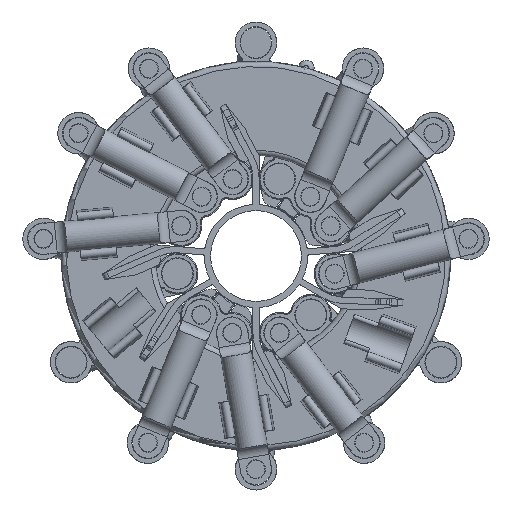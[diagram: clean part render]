
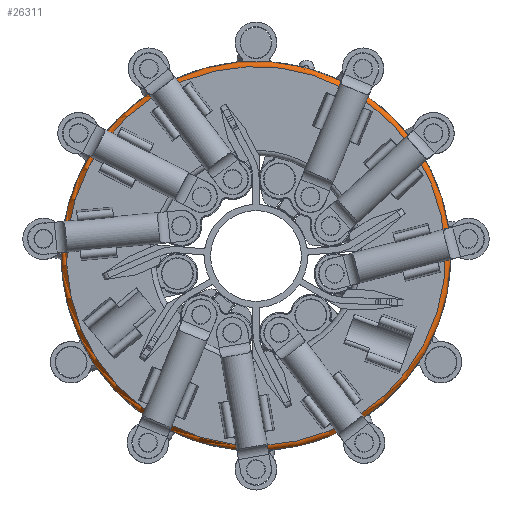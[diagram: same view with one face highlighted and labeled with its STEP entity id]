
A CAD part, front view. The second image highlights one B-rep face of the part: STEP entity #26311.
In plain terms, the highlighted toroidal (fillet/blend) face has major radius 36.7 mm and minor radius 1 mm.
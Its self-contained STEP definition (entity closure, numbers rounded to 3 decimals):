
#129=TOROIDAL_SURFACE('',#29480,36.7,1.);
#2453=FACE_OUTER_BOUND('',#3976,.T.);
#3976=EDGE_LOOP('',(#22856,#22857,#22858,#22859,#22860,#22861));
#7728=CIRCLE('',#26787,36.7);
#9072=CIRCLE('',#29045,37.7);
#9073=CIRCLE('',#29047,37.7);
#9074=CIRCLE('',#29048,37.7);
#9254=CIRCLE('',#29481,1.);
#9709=VERTEX_POINT('',#39328);
#11474=VERTEX_POINT('',#46161);
#11475=VERTEX_POINT('',#46174);
#11477=VERTEX_POINT('',#46196);
#12324=EDGE_CURVE('',#9709,#9709,#7728,.T.);
#14975=EDGE_CURVE('',#11475,#11474,#9072,.T.);
#14976=EDGE_CURVE('',#11477,#11475,#9073,.T.);
#14977=EDGE_CURVE('',#11474,#11477,#9074,.T.);
#15402=EDGE_CURVE('',#9709,#11477,#9254,.T.);
#22856=ORIENTED_EDGE('',*,*,#12324,.T.);
#22857=ORIENTED_EDGE('',*,*,#15402,.T.);
#22858=ORIENTED_EDGE('',*,*,#14976,.T.);
#22859=ORIENTED_EDGE('',*,*,#14975,.T.);
#22860=ORIENTED_EDGE('',*,*,#14977,.T.);
#22861=ORIENTED_EDGE('',*,*,#15402,.F.);
#26311=ADVANCED_FACE('',(#2453),#129,.T.);
#26787=AXIS2_PLACEMENT_3D('',#39329,#30740,#30741);
#29045=AXIS2_PLACEMENT_3D('',#46194,#36415,#36416);
#29047=AXIS2_PLACEMENT_3D('',#46197,#36419,#36420);
#29048=AXIS2_PLACEMENT_3D('',#46198,#36421,#36422);
#29480=AXIS2_PLACEMENT_3D('',#47104,#37522,#37523);
#29481=AXIS2_PLACEMENT_3D('',#47105,#37524,#37525);
#30740=DIRECTION('center_axis',(0.,1.,0.));
#30741=DIRECTION('ref_axis',(0.,0.,
-1.));
#36415=DIRECTION('center_axis',(0.,-1.,0.));
#36416=DIRECTION('ref_axis',(0.,0.,
1.));
#36419=DIRECTION('center_axis',(0.,-1.,0.));
#36420=DIRECTION('ref_axis',(0.,0.,
1.));
#36421=DIRECTION('center_axis',(0.,-1.,0.));
#36422=DIRECTION('ref_axis',(0.,0.,
1.));
#37522=DIRECTION('center_axis',(0.,-1.,0.));
#37523=DIRECTION('ref_axis',(-0.22,0.,0.976));
#37524=DIRECTION('center_axis',(0.976,0.,
0.22));
#37525=DIRECTION('ref_axis',(0.22,0.,-0.976));
#39328=CARTESIAN_POINT('',(-16.445,-11.973,-35.812));
#39329=CARTESIAN_POINT('Origin',(-24.502,-11.973,-0.007));
#46161=CARTESIAN_POINT('',(-15.237,-10.973,36.537));
#46174=CARTESIAN_POINT('',(-14.271,-10.973,36.279));
#46194=CARTESIAN_POINT('Origin',(-24.502,-10.973,-0.007));
#46196=CARTESIAN_POINT('',(-16.225,-10.973,-36.787));
#46197=CARTESIAN_POINT('Origin',(-24.502,-10.973,-0.007));
#46198=CARTESIAN_POINT('Origin',(-24.502,-10.973,-0.007));
#47104=CARTESIAN_POINT('Origin',(-24.502,-10.973,-0.007));
#47105=CARTESIAN_POINT('Origin',(-16.445,-10.973,-35.812));
